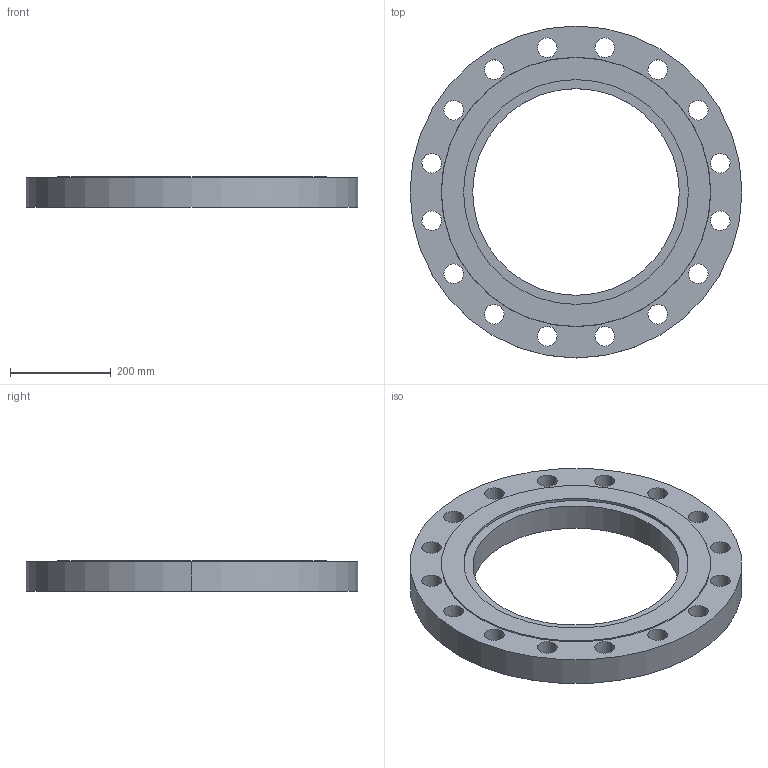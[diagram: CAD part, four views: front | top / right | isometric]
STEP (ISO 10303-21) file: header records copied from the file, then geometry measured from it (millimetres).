
FILE_DESCRIPTION (( 'STEP AP214' ), '1' );
FILE_NAME ('PN40 DN400 Type 01 - Type G Face.STEP', '2019-01-05T23:23:49', ( '' ), ( '' ), 'SwSTEP 2.0', 'SolidWorks 2019', '' );
FILE_SCHEMA (( 'AUTOMOTIVE_DESIGN' ));
Length unit declared in the file: millimetre
Products named in the file (1): PN40 DN400 Type 01 - Type G Face
Bounding box: 660 x 660 x 60 mm (x, y, z)
Volume: 11090900.4 mm3; surface area: 695548.4 mm2
Topology: 1 solids, 1 shells, 44 faces, 120 edges, 80 vertices
Faces by surface type: cylinder 38, plane 4, cone 2
Entity records: 1546 total; most frequent: DIRECTION 290, CARTESIAN_POINT 245, ORIENTED_EDGE 240, AXIS2_PLACEMENT_3D 125, EDGE_CURVE 120, CIRCLE 80, VERTEX_POINT 80, EDGE_LOOP 80
